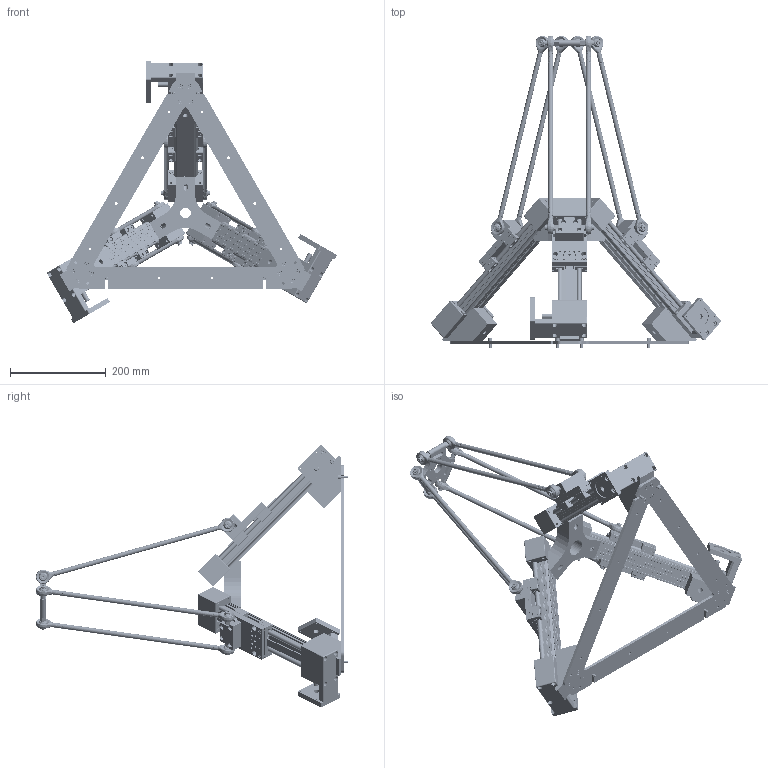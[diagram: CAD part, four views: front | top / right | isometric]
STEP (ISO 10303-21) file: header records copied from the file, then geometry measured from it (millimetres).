
FILE_DESCRIPTION(/* description */ ('DeltaRobot im Schaum verpackt, ohne Motoren'),/* implementation_level */ '2;1');
FILE_NAME(/* name */ 'I:\Gleitlager\Konstruktion\SERIE NEU (im Aufbau!!)\drylin E\Deltaroboter\Modelle\DLE-DR-0005\DLE-DR-0005.stp',/* time_stamp */ '2019-07-29T15:04:47+02:00',/* author */ ('fkoeching'),/* organization */ (''),/* preprocessor_version */ 'ST-DEVELOPER v17',/* originating_system */ 'Autodesk Inventor 2018',/* authorisation */ '');
FILE_SCHEMA (('AUTOMOTIVE_DESIGN { 1 0 10303 214 3 1 1 }'));
Products named in the file (58): DLE-DR-0005; ETY-DR-0008; ETY-DR-0013; DLE-DR-ZLW-0003; ZSX-104001; ZTL-104002; SAXT-104001; ZTL-10400S-V; SAWT-104002; NOR-10412; ZR-104001; ZR-104001-XX; ZSY-104002; NOR-10735; ZTF-104004; SAXT-104004; SAXT-104002; NOR-10614; ZTF-10400S-V; SAWT-104001; ZTY-104035; NOR-20901; JTEM-10; ZTZ-104009; NOR-10604; ZSA-104001-AL; ZSY-104001; WJ200UMA-01-10-AL; WMA-01-10-AL; WRZ-011007; J200UMA-01-10; NOR-10601; MF-1040-NEMA23-S; zty104004; ZTY-104010; DIN 7984 M6 x 16; ETY-DR-0011; ZWY-104001; ETY-DR-0010; ETY-DR-0009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
Assembly tree (190 placements, depth 5):
  DLE-DR-0005
    ETY-DR-0008
    ETY-DR-0013  x3
    DLE-DR-ZLW-0003  x3
      ZSX-104001
      ZTL-104002
        SAXT-104001
        SAXT-104002
        NOR-10614  x2
        ZTL-10400S-V
          SAWT-104002
          NOR-10412  x4
          NOR-10604  x4
          JTEM-10  x4
          NOR-20901  x2
          ZTY-104035  x2
        ZTZ-104009  x2
      ZR-104001
        ZR-104001-XX
        NOR-10735  x2
        ZSY-104002  x2
      ZTF-104004
        SAXT-104004
        SAXT-104002
        NOR-10614  x2
        ZTF-10400S-V
          JTEM-10  x4
          SAWT-104001
          ZTY-104035  x2
          NOR-20901  x2
        ZTZ-104009  x2
        NOR-10604  x2
      ZSA-104001-AL
        ZSY-104001
        WJ200UMA-01-10-AL  x4
          WMA-01-10-AL
          WRZ-011007
          J200UMA-01-10
        NOR-10601  x4
      MF-1040-NEMA23-S
        zty104004
        ZTY-104010
        DIN 7984 M6 x 16  x2
    ETY-DR-0011
    ZWY-104001  x3
    ETY-DR-0010  x3
    KDGM-10-A-ER-J   x6
      KARM-10 CL
        /D/KARM-10-CL-KDGM
        WKM-10-14
      Rohr 8-10
    ETY-DR-0012  x12
    ETY-DR-0009
    NOR-10737  x12
    NOR-20602  x6
    NOR-10514  x15
    NOR-10610  x3
    NOR-10628  x12
    NOR-11030  x12
    NOR-10513  x4
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Bounding box: 605.04 x 651.25 x 547.38 mm (x, y, z)
Volume: 3187715.3 mm3; surface area: 1668000.8 mm2
Topology: 335 solids, 335 shells, 13287 faces, 35584 edges, 23280 vertices
Faces by surface type: plane 6608, cylinder 3950, bspline 1152, cone 897, torus 470, sphere 210
Full cylindrical faces by diameter (mm): 2.5 x3, 3 x4, 3.2 x3, 3.242 x12, 3.5 x4, 4 x42, 4.134 x72, 4.459 x6, 4.5 x24, 4.917 x66, 5 x136, 5.3 x4, 5.4 x3, 5.5 x55, 5.6 x10, 6 x78, 6.2 x24, 6.6 x42, 6.647 x6, 7 x12, 7.2 x12, 8 x54, 8.5 x40, 9.43 x12, 9.5 x24, 10 x142, 10.2 x24, 11 x54, 11.34 x6, 12 x15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
Entity records: 85220 total; most frequent: CARTESIAN_POINT 23188, DIRECTION 12797, ORIENTED_EDGE 12278, EDGE_CURVE 6139, AXIS2_PLACEMENT_3D 4753, VERTEX_POINT 4078, LINE 3291, VECTOR 3291
